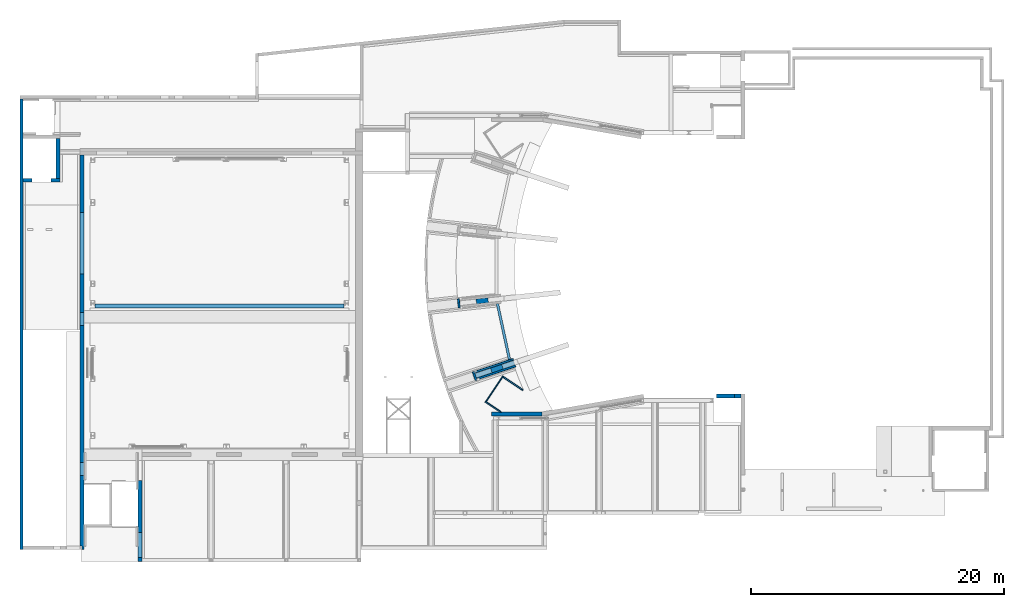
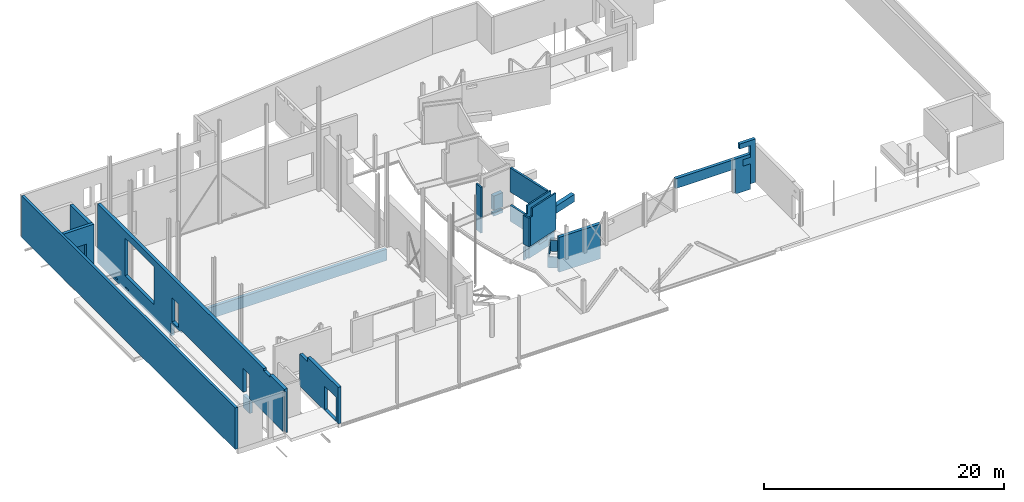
# One storey, part 26 of 37: 22 walls, 17 openings.
"""IFC2X3 building model written with IfcOpenShell, lengths in millimetres."""

from ifc_helpers import new_model, entity, si_unit, converted_unit, derived_unit, direction, frame, frame_2d, origin, origin_2d_with_axis, place, context, subcontext, project, spatial, polyline, rectangle, outline, extrude, clip, halfspace, bounded_halfspace, material, layer, layer_set, layer_usage, type_object, element, save


model = new_model("IFC2X3")

# Units and contexts
model_context = context("Model", 3, precision=0.01, world=origin(), true_north=direction((6.12303176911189e-17, 1.0)))
body_context = subcontext(model_context, "Body", "Model", "MODEL_VIEW")
ifc_project = project(units=[si_unit("LENGTHUNIT", "METRE", prefix="MILLI"), si_unit("AREAUNIT", "SQUARE_METRE", prefix="MILLI"), si_unit("VOLUMEUNIT", "CUBIC_METRE"), converted_unit("PLANEANGLEUNIT", "DEGREE", entity("IfcRatioMeasure", 0.0174532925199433), si_unit("PLANEANGLEUNIT", "RADIAN"), dimensions=[0, 0, 0, 0, 0, 0, 0]), si_unit("MASSUNIT", "GRAM", prefix="KILO"), derived_unit("MASSDENSITYUNIT", [(si_unit("MASSUNIT", "GRAM", prefix="KILO"), 1), (si_unit("LENGTHUNIT", "METRE"), -3)]), derived_unit("MOMENTOFINERTIAUNIT", [(si_unit("LENGTHUNIT", "METRE"), 4)]), si_unit("TIMEUNIT", "SECOND"), si_unit("FREQUENCYUNIT", "HERTZ"), si_unit("THERMODYNAMICTEMPERATUREUNIT", "DEGREE_CELSIUS"), derived_unit("THERMALTRANSMITTANCEUNIT", [(si_unit("MASSUNIT", "GRAM", prefix="KILO"), 1), (si_unit("THERMODYNAMICTEMPERATUREUNIT", "KELVIN"), -1), (si_unit("TIMEUNIT", "SECOND"), -3)]), derived_unit("VOLUMETRICFLOWRATEUNIT", [(si_unit("LENGTHUNIT", "METRE"), 3), (si_unit("TIMEUNIT", "SECOND"), -1)]), si_unit("ELECTRICCURRENTUNIT", "AMPERE"), si_unit("ELECTRICVOLTAGEUNIT", "VOLT"), si_unit("POWERUNIT", "WATT"), si_unit("FORCEUNIT", "NEWTON", prefix="KILO"), si_unit("ILLUMINANCEUNIT", "LUX"), si_unit("LUMINOUSFLUXUNIT", "LUMEN"), si_unit("LUMINOUSINTENSITYUNIT", "CANDELA"), derived_unit("USERDEFINED", [(si_unit("MASSUNIT", "GRAM", prefix="KILO"), -1), (si_unit("LENGTHUNIT", "METRE"), -2), (si_unit("TIMEUNIT", "SECOND"), 3), (si_unit("LUMINOUSFLUXUNIT", "LUMEN"), 1)]), derived_unit("LINEARVELOCITYUNIT", [(si_unit("LENGTHUNIT", "METRE"), 1), (si_unit("TIMEUNIT", "SECOND"), -1)]), si_unit("PRESSUREUNIT", "PASCAL"), derived_unit("USERDEFINED", [(si_unit("LENGTHUNIT", "METRE"), -2), (si_unit("MASSUNIT", "GRAM", prefix="KILO"), 1), (si_unit("TIMEUNIT", "SECOND"), -2)]), derived_unit("LINEARFORCEUNIT", [(si_unit("MASSUNIT", "GRAM", prefix="KILO"), 1), (si_unit("LENGTHUNIT", "METRE"), 1), (si_unit("TIMEUNIT", "SECOND"), -2), (si_unit("LENGTHUNIT", "METRE"), -1)]), derived_unit("PLANARFORCEUNIT", [(si_unit("MASSUNIT", "GRAM", prefix="KILO"), 1), (si_unit("LENGTHUNIT", "METRE"), 1), (si_unit("TIMEUNIT", "SECOND"), -2), (si_unit("LENGTHUNIT", "METRE"), -2)])], contexts=[model_context])

# Site, building, storey
site_placement = place(None, origin())
site = spatial("IfcSite", under=ifc_project, at=site_placement, Name="Theater aan de Parade", CompositionType="ELEMENT")
building_placement = place(site_placement, origin())
building = spatial("IfcBuilding", under=site, at=building_placement, Name="Theater aan de Parade", CompositionType="ELEMENT")
storey_placement = place(building_placement, frame((0.0, 0.0, 5020.0)))
storey = spatial("IfcBuildingStorey", under=building, at=storey_placement, Name="01 eerste verdieping", CompositionType="ELEMENT", Elevation=5020.0)

# Wall, openings
ifc_material_1 = material(Name="00_PBT_MAT_beton t.p.g.")
ifc_layer_1 = layer(ifc_material_1, 300.0)
ifc_layer_set_1 = layer_set([ifc_layer_1], Name="Basic Wall:28_PBT_WA_beton t.p.g._d=300_bestaand")
ifc_layer_usage_1 = layer_usage(ifc_layer_set_1, "AXIS2", "POSITIVE", -150.0)
wall_type_1 = type_object("IfcWallType", Name="Basic Wall:28_PBT_WA_beton t.p.g._d=300_bestaand", PredefinedType="STANDARD", material=ifc_layer_set_1)
wall_1_placement = place(storey_placement, frame((59641.4285714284, 22190.0, -550.0)))
wall_1 = element("IfcWallStandardCase", 1, at=wall_1_placement, inside=storey, type_object=wall_type_1, material=ifc_layer_usage_1, Name="Basic Wall:28_PBT_WA_beton t.p.g._d=300_bestaand", ObjectType="Basic Wall:28_PBT_WA_beton t.p.g._d=300_bestaand", context=body_context, shape_type="SweptSolid", body=[
    extrude(rectangle(XDim=7214.82752953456, YDim=300.000000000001, at=frame_2d((3607.41376476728, 0.0), x_axis=(-1.0, 0.0))), origin(), (0.0, 0.0, 1.0), 3580.00000000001),
])
opening_1_placement = place(wall_1_placement, origin())
element("IfcOpeningElement", 2, at=opening_1_placement, cuts=wall_1, Name="Basic Wall:28_PBT_WA_beton t.p.g._d=300_bestaand", ObjectType="Opening", context=body_context, shape_type="SweptSolid", body=[
    extrude(rectangle(XDim=649.999999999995, YDim=706.256100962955, at=frame_2d((-4.32009983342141e-12, 0.0), x_axis=(0.0, 1.0))), frame((6861.69947905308, 150.0, 2935.0), z_axis=(0.0, -1.0, 0.0), x_axis=(-1.0, 0.0, 0.0)), (0.0, 0.0, 1.0), 300.0),
])
opening_2_placement = place(wall_1_placement, origin())
element("IfcOpeningElement", 3, at=opening_2_placement, cuts=wall_1, Name="Basic Wall:28_PBT_WA_beton t.p.g._d=300_bestaand", ObjectType="Opening", context=body_context, shape_type="SweptSolid", body=[
    extrude(rectangle(XDim=2580.0, YDim=5778.57142857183, at=origin_2d_with_axis()), frame((2889.28571428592, 150.0, 1290.0), z_axis=(0.0, -1.0, 0.0), x_axis=(0.0, 0.0, 1.0)), (0.0, 0.0, 1.0), 300.0),
])

# Wall
ifc_layer_usage_2 = layer_usage(ifc_layer_set_1, "AXIS2", "POSITIVE", -150.0)
wall_2_placement = place(storey_placement, frame((47610.9866342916, 20780.0, -1420.0)))
element("IfcWallStandardCase", 4, at=wall_2_placement, inside=storey, type_object=wall_type_1, material=ifc_layer_usage_2, Name="Basic Wall:28_PBT_WA_beton t.p.g._d=300_bestaand", ObjectType="Basic Wall:28_PBT_WA_beton t.p.g._d=300_bestaand", context=body_context, shape_type="SweptSolid", body=[
    extrude(rectangle(XDim=3999.35112321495, YDim=300.000000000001, at=frame_2d((1999.67556160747, 0.0), x_axis=(-1.0, 0.0))), origin(), (0.0, 0.0, 1.0), 3550.0),
])

# Wall, openings
ifc_layer_2 = layer(ifc_material_1, 400.0)
ifc_layer_set_2 = layer_set([ifc_layer_2], Name="Basic Wall:28_PBT_WA_beton t.p.g._d=400_bestaand")
ifc_layer_usage_3 = layer_usage(ifc_layer_set_2, "AXIS2", "POSITIVE", -200.0)
wall_type_2 = type_object("IfcWallType", Name="Basic Wall:28_PBT_WA_beton t.p.g._d=400_bestaand", PredefinedType="STANDARD", material=ifc_layer_set_2)
wall_3_placement = place(storey_placement, frame((51835.0945694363, 25640.878312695, -1420.0), z_axis=(0.0, 0.0, 1.0), x_axis=(-0.948323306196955, -0.317305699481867, 0.0)))
wall_3 = element("IfcWallStandardCase", 5, at=wall_3_placement, inside=storey, type_object=wall_type_2, material=ifc_layer_usage_3, Name="Basic Wall:28_PBT_WA_beton t.p.g._d=400_bestaand", ObjectType="Basic Wall:28_PBT_WA_beton t.p.g._d=400_bestaand", context=body_context, shape_type="SweptSolid", body=[
    extrude(rectangle(XDim=5773.50565182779, YDim=400.000000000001, at=frame_2d((2886.7528259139, 3.12638803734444e-13), x_axis=(-1.0, 0.0))), origin(), (0.0, 0.0, 1.0), 3550.0),
])
opening_3_placement = place(wall_3_placement, origin())
element("IfcOpeningElement", 6, at=opening_3_placement, cuts=wall_3, Name="Basic Wall:28_PBT_WA_beton t.p.g._d=400_bestaand", ObjectType="Opening", context=body_context, shape_type="SweptSolid", body=[
    extrude(rectangle(XDim=2049.99999999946, YDim=949.999999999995, at=frame_2d((0.0, 4.12114786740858e-12), x_axis=(1.0, 0.0))), frame((3995.63819370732, 200.0, 1775.0), z_axis=(0.0, -1.0, 0.0), x_axis=(0.0, 0.0, 1.0)), (0.0, 0.0, 1.0), 400.0),
])
opening_4_placement = place(wall_3_placement, origin())
element("IfcOpeningElement", 7, at=opening_4_placement, cuts=wall_3, Name="Basic Wall:28_PBT_WA_beton t.p.g._d=400_bestaand", ObjectType="Opening", context=body_context, shape_type="SweptSolid", body=[
    extrude(rectangle(XDim=2799.9999999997, YDim=2535.82340191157, at=frame_2d((0.0, -3.97903932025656e-12), x_axis=(1.0, 0.0))), frame((1267.91170095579, 200.0, 1400.0), z_axis=(0.0, -1.0, 0.0), x_axis=(0.0, 0.0, -1.0)), (0.0, 0.0, 1.0), 400.0),
])

ifc_material_2 = material(Name="00_PBT_MAT_beton t.p.g._C30/37")
ifc_layer_3 = layer(ifc_material_2, 300.0)
ifc_layer_set_3 = layer_set([ifc_layer_3], Name="Basic Wall:28_PBT_WA_beton t.p.g._d=300_C30/37")
ifc_layer_usage_4 = layer_usage(ifc_layer_set_3, "AXIS2", "NEGATIVE", 150.0)
wall_type_3 = type_object("IfcWallType", Name="Basic Wall:28_PBT_WA_beton t.p.g._d=300_C30/37", PredefinedType="STANDARD", material=ifc_layer_set_3)
wall_4_placement = place(storey_placement, frame((13454.8570025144, 39270.0, 0.0), z_axis=(0.0, 0.0, 1.0), x_axis=(-1.0, 0.0, 0.0)))
wall_4 = element("IfcWallStandardCase", 8, at=wall_4_placement, inside=storey, type_object=wall_type_3, material=ifc_layer_usage_4, Name="Basic Wall:28_PBT_WA_beton t.p.g._d=300_C30/37", ObjectType="Basic Wall:28_PBT_WA_beton t.p.g._d=300_C30/37", context=body_context, shape_type="SweptSolid", body=[
    extrude(rectangle(XDim=2900.74444879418, YDim=300.000000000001, at=frame_2d((1450.37222439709, -6.11066752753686e-13), x_axis=(-1.0, 0.0))), origin(), (0.0, 0.0, 1.0), 4235.0),
])
opening_5_placement = place(wall_4_placement, origin())
element("IfcOpeningElement", 9, at=opening_5_placement, cuts=wall_4, Name="Basic Wall:28_PBT_WA_beton t.p.g._d=300_C30/37", ObjectType="Opening", context=body_context, shape_type="SweptSolid", body=[
    extrude(rectangle(XDim=2449.99999999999, YDim=1500.0, at=frame_2d((-5.6843418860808e-13, 1.08002495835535e-12), x_axis=(1.0, 0.0))), frame((1450.54436971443, -150.0, 1225.0), z_axis=(0.0, 1.0, 0.0), x_axis=(0.0, 0.0, -1.0)), (0.0, 0.0, 1.0), 300.000000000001),
])
opening_6_placement = place(wall_4_placement, origin())
element("IfcOpeningElement", 10, at=opening_6_placement, cuts=wall_4, Name="Basic Wall:28_PBT_WA_beton t.p.g._d=300_C30/37", ObjectType="Opening", context=body_context, shape_type="SweptSolid", body=[
    extrude(rectangle(XDim=2449.99999999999, YDim=1900.0, at=frame_2d((-5.6843418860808e-13, -1.08002495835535e-12), x_axis=(1.0, 0.0))), frame((1650.54436971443, -150.0, 5460.0), z_axis=(0.0, 1.0, 0.0), x_axis=(0.0, 0.0, -1.0)), (0.0, 0.0, 1.0), 300.000000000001),
])

# Wall
ifc_layer_usage_5 = layer_usage(ifc_layer_set_3, "AXIS2", "NEGATIVE", 150.0)
wall_5_placement = place(storey_placement, frame((13304.8570025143, 42570.0, 0.0), z_axis=(0.0, 0.0, 1.0), x_axis=(0.0, -1.0, 0.0)))
element("IfcWallStandardCase", 11, at=wall_5_placement, inside=storey, type_object=wall_type_3, material=ifc_layer_usage_5, Name="Basic Wall:28_PBT_WA_beton t.p.g._d=300_C30/37", ObjectType="Basic Wall:28_PBT_WA_beton t.p.g._d=300_C30/37", context=body_context, shape_type="SweptSolid", body=[
    extrude(rectangle(XDim=3150.00000002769, YDim=300.000000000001, at=frame_2d((1575.00000001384, 1.84741111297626e-13), x_axis=(-1.0, 0.0))), origin(), (0.0, 0.0, 1.0), 4235.0),
])

# Wall, openings
ifc_layer_usage_6 = layer_usage(ifc_layer_set_3, "AXIS2", "NEGATIVE", 150.0)
wall_6_placement = place(storey_placement, frame((15203.8570025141, 41273.308327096, -1550.0), z_axis=(0.0, 0.0, 1.0), x_axis=(0.0, -1.0, 0.0)))
wall_6 = element("IfcWallStandardCase", 12, at=wall_6_placement, inside=storey, type_object=wall_type_3, material=ifc_layer_usage_6, Name="Basic Wall:28_PBT_WA_beton t.p.g._d=300_C30/37", ObjectType="Basic Wall:28_PBT_WA_beton t.p.g._d=300_C30/37", context=body_context, shape_type="Clipping", body=[
    clip(clip(clip(clip(clip(clip(clip(extrude(rectangle(XDim=31203.981252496, YDim=300.000000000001, at=frame_2d((15601.990626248, -6.25277607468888e-13), x_axis=(-1.0, 0.0))), origin(), (0.0, 0.0, 1.0), 6010.0), bounded_halfspace(frame((12299.993827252, -150.0, 1300.0), z_axis=(0.0, 0.0, 1.0), x_axis=(0.0, 1.0, 0.0)), True, frame((12299.993827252, -150.0, 1300.0)), polyline([(0.0, 0.0), (1653.987425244, 0.0), (1653.987425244, 300.0), (0.0, 300.0), (0.0, 0.0)]))), bounded_halfspace(frame((12299.993827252, -150.0, 0.0), z_axis=(0.0, 0.0, 1.0), x_axis=(0.0, 1.0, 0.0)), True, frame((12299.993827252, -150.0, 0.0)), polyline([(0.0, 0.0), (0.0, 300.0), (-12299.993827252, 300.0), (-12299.993827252, 0.0), (0.0, 0.0)]))), bounded_halfspace(frame((30953.9812524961, 0.0, 5785.0), z_axis=(0.0, 1.0, 0.0), x_axis=(-1.0, 0.0, 0.0)), True, frame((30953.9812524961, 0.0, 5785.0), z_axis=(0.0, 1.0, 0.0), x_axis=(-1.0, 0.0, 0.0)), polyline([(0.0, 0.0), (-250.0, 0.0), (-250.0, -4235.0), (0.0, -4235.0), (0.0, 0.0)]))), bounded_halfspace(frame((30953.9812524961, 0.0, 5785.0), z_axis=(0.0, 0.0, 1.0), x_axis=(-1.0, 0.0, 0.0)), True, frame((30953.9812524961, 0.0, 5785.0), z_axis=(0.0, 0.0, 1.0), x_axis=(-1.0, 0.0, 0.0)), polyline([(0.0, 0.0), (0.0, 150.0), (-250.0, 150.0), (-250.0, 0.0), (0.0, 0.0)]))), bounded_halfspace(frame((13953.981252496, 150.0, 1550.0), z_axis=(-1.0, 0.0, 0.0), x_axis=(0.0, 0.0, 1.0)), True, frame((13953.981252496, 150.0, 1550.0), z_axis=(-1.0, 0.0, 0.0), x_axis=(0.0, 0.0, 1.0)), polyline([(0.0, 0.0), (-250.0, 0.0), (-250.0, -300.0), (0.0, -300.0), (0.0, 0.0)]))), bounded_halfspace(frame((31203.981252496, 0.0, 1550.0), z_axis=(0.0, 0.0, -1.0), x_axis=(0.0, 1.0, 0.0)), False, frame((31203.981252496, 0.0, 1550.0)), polyline([(0.0, 0.0), (-250.0, 0.0), (-250.0, -149.763190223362), (-250.0, -150.0), (-5830.67292539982, -150.0), (-5830.67292539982, 150.0), (-5194.30000000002, 150.0), (-1950.0, 150.0), (-1750.0, 150.0), (0.0, 150.0), (0.0, 0.0)]))), bounded_halfspace(frame((31203.981252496, 0.0, 1550.0), z_axis=(0.0, 0.0, -1.0), x_axis=(0.0, 1.0, 0.0)), False, frame((31203.981252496, 0.0, 1550.0)), polyline([(-17250.0, -150.0), (-17250.0, 150.0), (-7941.98137987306, 150.0), (-6884.67292539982, 150.0), (-6884.67292539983, -150.0), (-17250.0, -150.0)]))),
])
opening_7_placement = place(wall_6_placement, origin())
element("IfcOpeningElement", 13, at=opening_7_placement, cuts=wall_6, Name="Basic Wall:28_PBT_WA_beton t.p.g._d=300_C30/37", ObjectType="Opening", context=body_context, shape_type="SweptSolid", body=[
    extrude(rectangle(XDim=2419.99999999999, YDim=1054.00000000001, at=frame_2d((5.6843418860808e-13, -1.08002495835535e-12), x_axis=(1.0, 0.0))), frame((28243.458158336, -150.0, 6995.0), z_axis=(0.0, 1.0, 0.0), x_axis=(0.0, 0.0, -1.0)), (0.0, 0.0, 1.0), 300.000000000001),
])
opening_8_placement = place(wall_6_placement, origin())
element("IfcOpeningElement", 14, at=opening_8_placement, cuts=wall_6, Name="Basic Wall:28_PBT_WA_beton t.p.g._d=300_C30/37", ObjectType="Opening", context=body_context, shape_type="SweptSolid", body=[
    extrude(rectangle(XDim=2419.99999999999, YDim=1054.00000000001, at=frame_2d((5.6843418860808e-13, 1.08002495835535e-12), x_axis=(1.0, 0.0))), frame((24846.3083270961, -150.0, 2760.0), z_axis=(0.0, 1.0, 0.0), x_axis=(0.0, 0.0, -1.0)), (0.0, 0.0, 1.0), 300.000000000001),
])
opening_9_placement = place(wall_6_placement, origin())
element("IfcOpeningElement", 15, at=opening_9_placement, cuts=wall_6, Name="Basic Wall:28_PBT_WA_beton t.p.g._d=300_C30/37", ObjectType="Opening", context=body_context, shape_type="SweptSolid", body=[
    extrude(rectangle(XDim=3759.99999999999, YDim=249.999999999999, at=frame_2d((1.08002495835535e-12, 0.0), x_axis=(0.0, 1.0))), frame((31078.9812524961, -1249.76319022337, 3430.0), z_axis=(0.0, 1.0, 0.0), x_axis=(1.0, 0.0, 0.0)), (0.0, 0.0, 1.0), 1100.0),
])
opening_10_placement = place(wall_6_placement, origin())
element("IfcOpeningElement", 16, at=opening_10_placement, cuts=wall_6, Name="Basic Wall:28_PBT_WA_beton t.p.g._d=300_C30/37", ObjectType="Opening", context=body_context, shape_type="SweptSolid", body=[
    extrude(rectangle(XDim=3849.99999999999, YDim=4834.00000000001, at=frame_2d((5.6843418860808e-13, -2.27373675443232e-12), x_axis=(1.0, 0.0))), frame((6979.99382924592, -150.0, 3375.0), z_axis=(0.0, 1.0, 0.0), x_axis=(0.0, 0.0, -1.0)), (0.0, 0.0, 1.0), 300.000000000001),
])
opening_11_placement = place(wall_6_placement, origin())
element("IfcOpeningElement", 17, at=opening_11_placement, cuts=wall_6, Name="Basic Wall:28_PBT_WA_beton t.p.g._d=300_C30/37", ObjectType="Opening", context=body_context, shape_type="SweptSolid", body=[
    extrude(rectangle(XDim=2419.99999999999, YDim=1054.0, at=frame_2d((5.6843418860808e-13, 0.0), x_axis=(1.0, 0.0))), frame((12984.0394920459, -150.0, 2760.0), z_axis=(0.0, 1.0, 0.0), x_axis=(0.0, 0.0, -1.0)), (0.0, 0.0, 1.0), 300.000000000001),
])
opening_12_placement = place(wall_6_placement, origin())
element("IfcOpeningElement", 18, at=opening_12_placement, cuts=wall_6, Name="Basic Wall:28_PBT_WA_beton t.p.g._d=300_C30/37", ObjectType="Opening", context=body_context, shape_type="SweptSolid", body=[
    extrude(rectangle(XDim=149.999999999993, YDim=450.000000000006, at=frame_2d((0.0, 2.1600499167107e-12), x_axis=(1.0, 0.0))), frame((4912.31023659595, -150.0, 325.0), z_axis=(0.0, 1.0, 0.0), x_axis=(0.0, 0.0, -1.0)), (0.0, 0.0, 1.0), 300.000000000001),
])
opening_13_placement = place(wall_6_placement, origin())
element("IfcOpeningElement", 19, at=opening_13_placement, cuts=wall_6, Name="Basic Wall:28_PBT_WA_beton t.p.g._d=300_C30/37", ObjectType="Opening", context=body_context, shape_type="SweptSolid", body=[
    extrude(rectangle(XDim=149.999999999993, YDim=450.000000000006, at=frame_2d((0.0, 2.1600499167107e-12), x_axis=(1.0, 0.0))), frame((3118.60647586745, -150.0, 320.0), z_axis=(0.0, 1.0, 0.0), x_axis=(0.0, 0.0, -1.0)), (0.0, 0.0, 1.0), 300.000000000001),
])

# Wall, opening
ifc_layer_usage_7 = layer_usage(ifc_layer_set_3, "AXIS2", "NEGATIVE", 150.0)
wall_7_placement = place(storey_placement, frame((19803.857002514, 15495.5270746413, -80.0), z_axis=(0.0, 0.0, 1.0), x_axis=(0.0, -1.0, 0.0)))
wall_7 = element("IfcWallStandardCase", 20, at=wall_7_placement, inside=storey, type_object=wall_type_3, material=ifc_layer_usage_7, Name="Basic Wall:28_PBT_WA_beton t.p.g._d=300_C30/37", ObjectType="Basic Wall:28_PBT_WA_beton t.p.g._d=300_C30/37", context=body_context, shape_type="Clipping", body=[
    clip(clip(clip(clip(clip(extrude(rectangle(XDim=6406.60904225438, YDim=300.000000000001, at=frame_2d((3203.30452112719, 0.0), x_axis=(-1.0, 0.0))), origin(), (0.0, 0.0, 1.0), 3720.00000000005), bounded_halfspace(frame((0.0, -150.0, 3260.0), z_axis=(0.0, 0.0, -1.0), x_axis=(1.0, 0.0, 0.0)), True, frame((0.0, -150.0, 3260.0)), polyline([(0.0, 0.0), (1309.23637832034, 0.0), (1309.23637832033, 300.0), (0.0, 300.0), (0.0, 0.0)]))), bounded_halfspace(frame((1309.23637832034, -150.0, 3720.0), z_axis=(0.0, 0.0, -1.0), x_axis=(0.0, 1.0, 0.0)), True, frame((1309.23637832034, -150.0, 3720.0)), polyline([(0.0, 0.0), (4323.12822772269, 0.0), (5097.37266393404, 0.0), (5097.37266393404, 300.0), (0.0, 300.0), (0.0, 0.0)]))), bounded_halfspace(frame((67.5606079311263, 150.0, 80.0), z_axis=(0.0, 0.0, 1.0), x_axis=(0.0, 1.0, 0.0)), True, frame((67.5606079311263, 150.0, 80.0), z_axis=(0.0, 0.0, 1.0), x_axis=(0.0, 1.0, 0.0)), polyline([(0.0, 0.0), (0.0, 67.5606079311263), (-300.0, 67.5606079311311), (-300.0, 0.0), (0.0, 0.0)]))), bounded_halfspace(frame((67.5606079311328, -150.0, 80.0), z_axis=(1.0, 0.0, 0.0), x_axis=(0.0, 0.0, 1.0)), True, frame((67.5606079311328, -150.0, 80.0), z_axis=(1.0, 0.0, 0.0), x_axis=(0.0, 0.0, 1.0)), polyline([(0.0, 0.0), (-80.0, 0.0), (-80.0, -300.0), (0.0, -300.0), (0.0, 0.0)]))), bounded_halfspace(frame((0.0, -150.0, 3260.0), z_axis=(0.0, 0.0, -1.0), x_axis=(1.0, 0.0, 0.0)), True, frame((0.0, -150.0, 3260.0)), polyline([(0.0, 0.0), (1309.23637832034, 0.0), (1309.23637832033, 300.0), (0.0, 300.0), (0.0, 0.0)]))),
])
opening_14_placement = place(wall_7_placement, origin())
element("IfcOpeningElement", 21, at=opening_14_placement, cuts=wall_7, Name="Basic Wall:28_PBT_WA_beton t.p.g._d=300_C30/37", ObjectType="Opening", context=body_context, shape_type="SweptSolid", body=[
    extrude(rectangle(XDim=2419.99999999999, YDim=1975.0, at=frame_2d((5.6843418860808e-13, -1.59161572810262e-12), x_axis=(1.0, 0.0))), frame((5096.02707464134, -150.0, 1290.0), z_axis=(0.0, 1.0, 0.0), x_axis=(0.0, 0.0, -1.0)), (0.0, 0.0, 1.0), 300.000000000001),
])

# Wall
ifc_layer_usage_8 = layer_usage(ifc_layer_set_3, "AXIS2", "NEGATIVE", 150.0)
wall_8_placement = place(storey_placement, frame((16243.8570032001, 29323.314609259, -1300.0)))
element("IfcWallStandardCase", 22, at=wall_8_placement, inside=storey, type_object=wall_type_3, material=ifc_layer_usage_8, Name="Basic Wall:28_PBT_WA_beton t.p.g._d=300_C30/37", ObjectType="Basic Wall:28_PBT_WA_beton t.p.g._d=300_C30/37", context=body_context, shape_type="SweptSolid", body=[
    extrude(rectangle(XDim=19720.0011268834, YDim=300.000000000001, at=frame_2d((9860.0005634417, -1.06581410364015e-12), x_axis=(-1.0, 0.0))), origin(), (0.0, 0.0, 1.0), 1150.0),
])

# Wall, openings
ifc_layer_usage_9 = layer_usage(ifc_layer_set_3, "AXIS2", "NEGATIVE", 150.0)
wall_9_placement = place(storey_placement, frame((65806.05952203, 22190.0, 0.0)))
wall_9 = element("IfcWallStandardCase", 23, at=wall_9_placement, inside=storey, type_object=wall_type_3, material=ifc_layer_usage_9, Name="Basic Wall:28_PBT_WA_beton t.p.g._d=300_C30/37", ObjectType="Basic Wall:28_PBT_WA_beton t.p.g._d=300_C30/37", context=body_context, shape_type="Clipping", body=[
    clip(clip(extrude(rectangle(XDim=1550.19657893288, YDim=300.000000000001, at=frame_2d((775.09828946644, 6.53699316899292e-13), x_axis=(-1.0, 0.0))), origin(), (0.0, 0.0, 1.0), 4410.00000000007), halfspace(frame((0.0, 0.0, 3910.0), z_axis=(-0.983153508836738, 0.0, -0.182781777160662), x_axis=(0.0, 1.0, 0.0)), False)), halfspace(frame((343.940477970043, 0.0, 2060.0), z_axis=(-0.94595011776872, 0.0, -0.324312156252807), x_axis=(0.0, 1.0, 0.0)), False)),
])
opening_15_placement = place(wall_9_placement, origin())
element("IfcOpeningElement", 24, at=opening_15_placement, cuts=wall_9, Name="Basic Wall:28_PBT_WA_beton t.p.g._d=300_C30/37", ObjectType="Opening", context=body_context, shape_type="SweptSolid", body=[
    extrude(outline(polyline([(-937.609622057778, -392.89578513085), (944.090421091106, -392.895785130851), (305.040640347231, -274.087629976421), (434.131385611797, 420.270533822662), (-745.652824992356, 639.608666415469), (-937.609622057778, -392.89578513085)])), frame((557.654822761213, 150.0, 3060.0), z_axis=(0.0, -1.0, 0.0), x_axis=(0.182781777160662, 0.0, -0.983153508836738)), (0.0, 0.0, 1.0), 300.0),
])
opening_16_placement = place(wall_9_placement, origin())
element("IfcOpeningElement", 25, at=opening_16_placement, cuts=wall_9, Name="Basic Wall:28_PBT_WA_beton t.p.g._d=300_C30/37", ObjectType="Opening", context=body_context, shape_type="SweptSolid", body=[
    extrude(outline(polyline([(-802.25070684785, -222.69434729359), (1375.45397472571, -222.694347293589), (-573.203267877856, 445.388694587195), (-802.25070684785, -222.69434729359)])), frame((814.777878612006, 150.0, 1373.33333333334), z_axis=(0.0, -1.0, 0.0), x_axis=(0.324312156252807, 0.0, -0.94595011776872)), (0.0, 0.0, 1.0), 300.0),
])

# Walls
ifc_layer_4 = layer(ifc_material_2, 250.0)
ifc_layer_set_4 = layer_set([ifc_layer_4], Name="Basic Wall:28_PBT_WA_beton t.p.g._d=250_C30/37")
ifc_layer_usage_10 = layer_usage(ifc_layer_set_4, "AXIS2", "POSITIVE", -125.0)
wall_type_4 = type_object("IfcWallType", Name="Basic Wall:28_PBT_WA_beton t.p.g._d=250_C30/37", PredefinedType="STANDARD", material=ifc_layer_set_4)
wall_10_placement = place(storey_placement, frame((10429.1125537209, 10069.3270746, 0.0), z_axis=(0.0, 0.0, 1.0), x_axis=(0.0, 1.0, 0.0)))
element("IfcWallStandardCase", 26, at=wall_10_placement, inside=storey, type_object=wall_type_4, material=ifc_layer_usage_10, Name="Basic Wall:28_PBT_WA_beton t.p.g._d=250_C30/37", ObjectType="Basic Wall:28_PBT_WA_beton t.p.g._d=250_C30/37", context=body_context, shape_type="SweptSolid", body=[
    extrude(rectangle(XDim=35653.6729253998, YDim=249.999999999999, at=frame_2d((17826.8364626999, 3.12638803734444e-13), x_axis=(-1.0, 0.0))), origin(), (0.0, 0.0, 1.0), 4235.0),
])
ifc_layer_5 = layer(ifc_material_2, 200.0)
ifc_layer_set_5 = layer_set([ifc_layer_5], Name="Basic Wall:28_PBT_WA_beton t.p.g._d=200_C30/37")
ifc_layer_usage_11 = layer_usage(ifc_layer_set_5, "AXIS2", "POSITIVE", -100.0)
wall_type_5 = type_object("IfcWallType", Name="Basic Wall:28_PBT_WA_beton t.p.g._d=200_C30/37", PredefinedType="STANDARD", material=ifc_layer_set_5)
wall_11_placement = place(storey_placement, frame((48087.5286119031, 29519.6086782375, -1710.0), z_axis=(0.0, 0.0, 1.0), x_axis=(0.211758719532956, -0.977321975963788, 0.0)))
element("IfcWallStandardCase", 27, at=wall_11_placement, inside=storey, type_object=wall_type_5, material=ifc_layer_usage_11, Name="Basic Wall:28_PBT_WA_beton t.p.g._d=200_C30/37", ObjectType="Basic Wall:28_PBT_WA_beton t.p.g._d=200_C30/37", context=body_context, shape_type="SweptSolid", body=[
    extrude(outline(polyline([(4555.63458103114, -100.0), (4533.64402480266, 100.0), (21.3466009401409, 100.0), (0.0, -100.0), (4555.63458103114, -100.0)])), origin(), (0.0, 0.0, 1.0), 1630.0),
])
ifc_layer_usage_12 = layer_usage(ifc_layer_set_5, "AXIS2", "POSITIVE", -100.0)
wall_12_placement = place(storey_placement, frame((48087.5286119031, 29519.6086782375, 1270.0), z_axis=(0.0, 0.0, 1.0), x_axis=(0.211758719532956, -0.977321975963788, 0.0)))
element("IfcWallStandardCase", 28, at=wall_12_placement, inside=storey, type_object=wall_type_5, material=ifc_layer_usage_12, Name="Basic Wall:28_PBT_WA_beton t.p.g._d=200_C30/37", ObjectType="Basic Wall:28_PBT_WA_beton t.p.g._d=200_C30/37", context=body_context, shape_type="SweptSolid", body=[
    extrude(outline(polyline([(4555.63458103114, -100.0), (4533.64402480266, 100.0), (21.3466009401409, 100.0), (0.0, -100.0), (4555.63458103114, -100.0)])), origin(), (0.0, 0.0, 1.0), 2459.99999999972),
])

# Wall, opening
ifc_layer_6 = layer(ifc_material_2, 400.0)
ifc_layer_set_6 = layer_set([ifc_layer_6], Name="Basic Wall:28_PBT_WA_beton t.p.g._d=400_C30/37")
ifc_layer_usage_13 = layer_usage(ifc_layer_set_6, "AXIS2", "NEGATIVE", 200.0)
wall_type_6 = type_object("IfcWallType", Name="Basic Wall:28_PBT_WA_beton t.p.g._d=400_C30/37", PredefinedType="STANDARD", material=ifc_layer_set_6)
wall_13_placement = place(storey_placement, frame((47358.4090823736, 29782.6022790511, -670.0), z_axis=(0.0, 0.0, 1.0), x_axis=(-0.994276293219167, -0.106839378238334, 0.0)))
wall_13 = element("IfcWallStandardCase", 29, at=wall_13_placement, inside=storey, type_object=wall_type_6, material=ifc_layer_usage_13, Name="Basic Wall:28_PBT_WA_beton t.p.g._d=400_C30/37", ObjectType="Basic Wall:28_PBT_WA_beton t.p.g._d=400_C30/37", context=body_context, shape_type="SweptSolid", body=[
    extrude(rectangle(XDim=950.000000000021, YDim=399.999999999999, at=frame_2d((475.000000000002, 7.105427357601e-13), x_axis=(-1.0, 0.0))), origin(), (0.0, 0.0, 1.0), 2049.99999999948),
])
opening_17_placement = place(storey_placement, frame((47358.4090823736, 29782.6022790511, -670.0), z_axis=(0.0, 0.0, 1.0), x_axis=(-0.994276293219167, -0.106839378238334, 0.0)))
element("IfcOpeningElement", 30, at=opening_17_placement, cuts=wall_13, Name="Basic Wall:28_PBT_WA_beton t.p.g._d=400_C30/37:1", ObjectType="Opening", context=body_context, shape_type="SweptSolid", body=[
    extrude(rectangle(XDim=949.999999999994, YDim=399.999999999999, at=frame_2d((2.27373675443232e-13, 2.1458390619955e-12), x_axis=(1.0, 0.0))), frame((475.0, 0.0, 290.0)), (0.0, 0.0, 1.0), 300.0),
])

# Walls
ifc_layer_usage_14 = layer_usage(ifc_layer_set_6, "AXIS2", "POSITIVE", -200.0)
wall_14_placement = place(storey_placement, frame((48496.3913176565, 24523.7597480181, -670.0), z_axis=(0.0, 0.0, 1.0), x_axis=(-0.948323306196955, -0.317305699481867, 0.0)))
element("IfcWallStandardCase", 31, at=wall_14_placement, inside=storey, type_object=wall_type_6, material=ifc_layer_usage_14, Name="Basic Wall:28_PBT_WA_beton t.p.g._d=400_C30/37", ObjectType="Basic Wall:28_PBT_WA_beton t.p.g._d=400_C30/37", context=body_context, shape_type="SweptSolid", body=[
    extrude(rectangle(XDim=949.999999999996, YDim=400.000000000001, at=frame_2d((474.999999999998, -7.53175299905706e-13), x_axis=(-1.0, 0.0))), origin(), (0.0, 0.0, 1.0), 2049.99999999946),
])
ifc_layer_7 = layer(ifc_material_2, 150.0)
ifc_layer_set_7 = layer_set([ifc_layer_7], Name="Basic Wall:28_PBT_WA_beton t.p.g._d=150_C30/37")
ifc_layer_usage_15 = layer_usage(ifc_layer_set_7, "AXIS2", "POSITIVE", -75.0)
wall_type_7 = type_object("IfcWallType", Name="Basic Wall:28_PBT_WA_beton t.p.g._d=150_C30/37", PredefinedType="STANDARD", material=ifc_layer_set_7)
wall_15_placement = place(storey_placement, frame((49345.0060821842, 25097.6888056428, -1710.0), z_axis=(0.0, 0.0, 1.0), x_axis=(-0.948323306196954, -0.31730569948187, 0.0)))
element("IfcWallStandardCase", 32, at=wall_15_placement, inside=storey, type_object=wall_type_7, material=ifc_layer_usage_15, Name="Basic Wall:28_PBT_WA_beton t.p.g._d=150_C30/37", ObjectType="Basic Wall:28_PBT_WA_beton t.p.g._d=150_C30/37", context=body_context, shape_type="Clipping", body=[
    clip(clip(extrude(rectangle(XDim=3389.73957838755, YDim=149.999999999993, at=frame_2d((1694.86978919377, 6.82121026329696e-13), x_axis=(-1.0, 0.0))), origin(), (0.0, 0.0, 1.0), 1630.0), bounded_halfspace(frame((201.987347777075, 75.0, 1330.0), z_axis=(0.0, 0.0, -1.0), x_axis=(-0.798634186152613, 0.601816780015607, 0.0)), True, frame((201.987347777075, 75.0, 1330.0), z_axis=(0.0, 0.0, -1.0), x_axis=(-0.798634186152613, 0.601816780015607, 0.0)), polyline([(0.0, 0.0), (-626.835811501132, 472.35682646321), (-2545.84790834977, 1918.44278291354), (-2636.12042535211, 1798.64765499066), (-77.1007095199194, -129.720842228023), (0.0, 0.0)]))), bounded_halfspace(frame((185.494430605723, -75.0, 1330.0), z_axis=(-0.994009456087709, 0.109294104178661, 0.0), x_axis=(0.0, 0.0, 1.0)), True, frame((185.494430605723, -75.0, 1330.0), z_axis=(-0.994009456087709, 0.109294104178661, 0.0), x_axis=(0.0, 0.0, 1.0)), polyline([(0.0, 0.0), (300.0, 0.0), (300.0, 150.903997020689), (0.0, 150.903997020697), (0.0, 0.0)]))),
])
ifc_layer_usage_16 = layer_usage(ifc_layer_set_7, "AXIS2", "NEGATIVE", 75.0)
wall_16_placement = place(storey_placement, frame((49518.6069977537, 24575.8040888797, -80.0), z_axis=(0.0, 0.0, 1.0), x_axis=(-0.948323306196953, -0.317305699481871, 0.0)))
element("IfcWallStandardCase", 33, at=wall_16_placement, inside=storey, type_object=wall_type_7, material=ifc_layer_usage_16, Name="Basic Wall:28_PBT_WA_beton t.p.g._d=150_C30/37", ObjectType="Basic Wall:28_PBT_WA_beton t.p.g._d=150_C30/37", context=body_context, shape_type="Clipping", body=[
    clip(clip(extrude(rectangle(XDim=3236.84328520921, YDim=149.999999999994, at=frame_2d((1618.42164260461, -7.67386154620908e-13), x_axis=(-1.0, 0.0))), origin(), (0.0, 0.0, 1.0), 3730.0), bounded_halfspace(frame((2985.19694590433, 75.0, 2910.0), z_axis=(0.0, 0.0, -1.0), x_axis=(0.0, 1.0, 0.0)), True, frame((2985.19694590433, 75.0, 2910.0), z_axis=(0.0, 0.0, -1.0), x_axis=(0.0, 1.0, 0.0)), polyline([(0.0, 0.0), (0.0, 251.646339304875), (-150.0, 251.646339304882), (-150.0, 0.0), (0.0, 0.0)]))), bounded_halfspace(frame((2985.19694590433, -75.0, 2910.0), z_axis=(-1.0, 0.0, 0.0), x_axis=(0.0, 1.0, 0.0)), True, frame((2985.19694590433, -75.0, 2910.0), z_axis=(-1.0, 0.0, 0.0), x_axis=(0.0, 1.0, 0.0)), polyline([(0.0, 0.0), (0.0, -500.0), (0.0, -820.0), (150.0, -820.0), (150.0, 0.0), (0.0, 0.0)]))),
])
ifc_layer_usage_17 = layer_usage(ifc_layer_set_7, "AXIS2", "POSITIVE", -75.0)
wall_17_placement = place(storey_placement, frame((49345.0060821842, 25097.6888056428, -80.0), z_axis=(0.0, 0.0, 1.0), x_axis=(-0.948323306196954, -0.31730569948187, 0.0)))
element("IfcWallStandardCase", 34, at=wall_17_placement, inside=storey, type_object=wall_type_7, material=ifc_layer_usage_17, Name="Basic Wall:28_PBT_WA_beton t.p.g._d=150_C30/37", ObjectType="Basic Wall:28_PBT_WA_beton t.p.g._d=150_C30/37", context=body_context, shape_type="Clipping", body=[
    clip(clip(extrude(rectangle(XDim=3237.81048609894, YDim=149.999999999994, at=frame_2d((1618.90524304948, -2.8634872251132e-12), x_axis=(-1.0, 0.0))), origin(), (0.0, 0.0, 1.0), 3730.0), bounded_halfspace(frame((2986.16414679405, 75.0, 2910.0), z_axis=(0.0, 0.0, -1.0), x_axis=(0.0, 1.0, 0.0)), True, frame((2986.16414679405, 75.0, 2910.0), z_axis=(0.0, 0.0, -1.0), x_axis=(0.0, 1.0, 0.0)), polyline([(0.0, 0.0), (0.0, 251.646339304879), (-150.0, 251.64633930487), (-150.0, 0.0), (0.0, 0.0)]))), bounded_halfspace(frame((2986.16414679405, -75.0, 2910.0), z_axis=(-1.0, 0.0, 0.0), x_axis=(0.0, 1.0, 0.0)), True, frame((2986.16414679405, -75.0, 2910.0), z_axis=(-1.0, 0.0, 0.0), x_axis=(0.0, 1.0, 0.0)), polyline([(0.0, 0.0), (0.0, -820.0), (150.0, -820.0), (150.0, -500.0), (150.0, 0.0), (0.0, 0.0)]))),
])
ifc_layer_usage_18 = layer_usage(ifc_layer_set_7, "AXIS2", "NEGATIVE", 75.0)
wall_18_placement = place(storey_placement, frame((46179.5927617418, 24117.6394050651, -80.0), z_axis=(0.0, 0.0, 1.0), x_axis=(0.317305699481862, -0.948323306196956, 0.0)))
element("IfcWallStandardCase", 35, at=wall_18_placement, inside=storey, type_object=wall_type_7, material=ifc_layer_usage_18, Name="Basic Wall:28_PBT_WA_beton t.p.g._d=150_C30/37", ObjectType="Basic Wall:28_PBT_WA_beton t.p.g._d=150_C30/37", context=body_context, shape_type="Clipping", body=[
    clip(extrude(rectangle(XDim=699.999999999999, YDim=150.000000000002, at=frame_2d((350.0, -4.47641923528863e-13), x_axis=(-1.0, 0.0))), origin(), (0.0, 0.0, 1.0), 2909.99999999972), bounded_halfspace(frame((0.0, -75.0, 2910.0), z_axis=(0.0, 0.0, -1.0), x_axis=(1.0, 0.0, 0.0)), True, frame((0.0, -75.0, 2910.0), z_axis=(0.0, 0.0, -1.0), x_axis=(1.0, 0.0, 0.0)), polyline([(0.0, 0.0), (0.0, -150.0), (150.0, -150.0), (550.0, -150.0), (700.0, -150.0), (700.0, 0.0), (0.0, 0.0)]))),
])
ifc_layer_usage_19 = layer_usage(ifc_layer_set_7, "AXIS2", "NEGATIVE", 75.0)
wall_19_placement = place(storey_placement, frame((44999.9201010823, 29881.1870530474, -1710.0), z_axis=(0.0, 0.0, 1.0), x_axis=(0.10683937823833, -0.994276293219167, 0.0)))
element("IfcWallStandardCase", 36, at=wall_19_placement, inside=storey, type_object=wall_type_7, material=ifc_layer_usage_19, Name="Basic Wall:28_PBT_WA_beton t.p.g._d=150_C30/37", ObjectType="Basic Wall:28_PBT_WA_beton t.p.g._d=150_C30/37", context=body_context, shape_type="SweptSolid", body=[
    extrude(rectangle(XDim=700.000000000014, YDim=149.999999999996, at=frame_2d((350.000000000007, 4.30588897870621e-12), x_axis=(-1.0, 0.0))), origin(), (0.0, 0.0, 1.0), 4690.00000000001),
])
ifc_material_3 = material(Name="00_PBT_MAT_kalkzandsteen_CS20")
ifc_layer_8 = layer(ifc_material_3, 100.0)
ifc_layer_set_8 = layer_set([ifc_layer_8], Name="Basic Wall:28_PBT_WA_kzs_d=100_CS20")
ifc_layer_usage_20 = layer_usage(ifc_layer_set_8, "AXIS2", "NEGATIVE", 50.0)
wall_type_8 = type_object("IfcWallType", Name="Basic Wall:28_PBT_WA_kzs_d=100_CS20", PredefinedType="STANDARD", material=ifc_layer_set_8)
wall_20_placement = place(storey_placement, frame((48424.5098714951, 20888.5160703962, -1420.0), z_axis=(0.0, 0.0, 1.0), x_axis=(-0.829678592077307, 0.558241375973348, 0.0)))
element("IfcWallStandardCase", 37, at=wall_20_placement, inside=storey, type_object=wall_type_8, material=ifc_layer_usage_20, Name="Basic Wall:28_PBT_WA_kzs_d=100_CS20", ObjectType="Basic Wall:28_PBT_WA_kzs_d=100_CS20", context=body_context, shape_type="SweptSolid", body=[
    extrude(outline(polyline([(1563.83476190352, -50.0), (1563.83476190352, 50.0), (148.623629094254, 50.0), (0.0, -50.0), (1463.83476190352, -50.0), (1563.83476190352, -50.0)])), origin(), (0.0, 0.0, 1.0), 1120.0),
])
ifc_layer_usage_21 = layer_usage(ifc_layer_set_8, "AXIS2", "NEGATIVE", 50.0)
wall_21_placement = place(storey_placement, frame((47196.4256464, 21775.0852004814, -1420.0), z_axis=(0.0, 0.0, 1.0), x_axis=(0.55824137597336, 0.829678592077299, 0.0)))
element("IfcWallStandardCase", 38, at=wall_21_placement, inside=storey, type_object=wall_type_8, material=ifc_layer_usage_21, Name="Basic Wall:28_PBT_WA_kzs_d=100_CS20", ObjectType="Basic Wall:28_PBT_WA_kzs_d=100_CS20", context=body_context, shape_type="SweptSolid", body=[
    extrude(rectangle(XDim=2410.00000000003, YDim=100.000000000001, at=frame_2d((1205.00000000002, -3.87245790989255e-13), x_axis=(-1.0, 0.0))), origin(), (0.0, 0.0, 1.0), 1119.99999999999),
])
ifc_layer_usage_22 = layer_usage(ifc_layer_set_8, "AXIS2", "NEGATIVE", 50.0)
wall_22_placement = place(storey_placement, frame((48555.359223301, 23705.2146089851, -1420.0), z_axis=(0.0, 0.0, 1.0), x_axis=(0.829678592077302, -0.558241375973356, 0.0)))
element("IfcWallStandardCase", 39, at=wall_22_placement, inside=storey, type_object=wall_type_8, material=ifc_layer_usage_22, Name="Basic Wall:28_PBT_WA_kzs_d=100_CS20", ObjectType="Basic Wall:28_PBT_WA_kzs_d=100_CS20", context=body_context, shape_type="SweptSolid", body=[
    extrude(rectangle(XDim=1848.50708705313, YDim=100.000000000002, at=frame_2d((924.253543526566, 6.25277607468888e-13), x_axis=(-1.0, 0.0))), origin(), (0.0, 0.0, 1.0), 1120.0),
])

save(model, "model.ifc")
